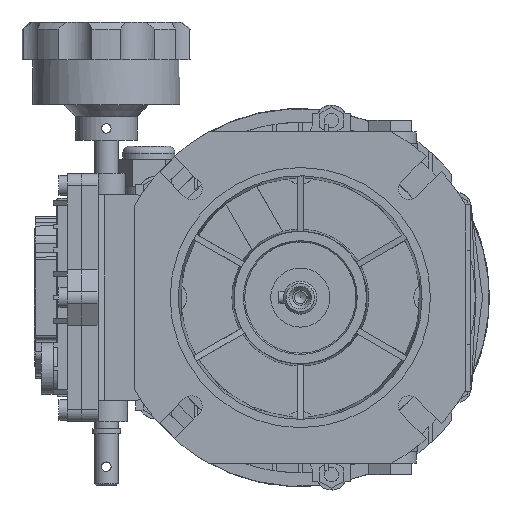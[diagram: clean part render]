
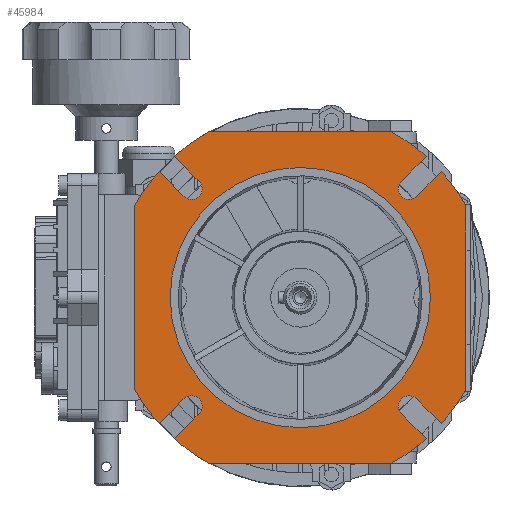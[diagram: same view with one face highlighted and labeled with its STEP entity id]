
A CAD part, left-side view. The second image highlights one B-rep face of the part: STEP entity #45984.
In plain terms, the highlighted planar face has unit normal (-1, 0, 0).
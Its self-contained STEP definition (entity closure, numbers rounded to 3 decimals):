
#1177=CIRCLE('',#48648,80.);
#1179=CIRCLE('',#48651,80.);
#1180=CIRCLE('',#48653,80.);
#1181=CIRCLE('',#48655,80.);
#1183=CIRCLE('',#48658,80.);
#1184=CIRCLE('',#48660,80.);
#1185=CIRCLE('',#48662,80.);
#1284=CIRCLE('',#48919,80.);
#1312=CIRCLE('',#48983,55.);
#1313=CIRCLE('',#48984,4.5);
#1314=CIRCLE('',#48985,4.5);
#1315=CIRCLE('',#48986,4.5);
#1316=CIRCLE('',#48987,4.5);
#5621=ORIENTED_EDGE('',*,*,#19101,.T.);
#5622=ORIENTED_EDGE('',*,*,#18504,.F.);
#5623=ORIENTED_EDGE('',*,*,#19102,.T.);
#5624=ORIENTED_EDGE('',*,*,#18499,.F.);
#5625=ORIENTED_EDGE('',*,*,#19103,.F.);
#5626=ORIENTED_EDGE('',*,*,#19104,.T.);
#5627=ORIENTED_EDGE('',*,*,#19105,.T.);
#5628=ORIENTED_EDGE('',*,*,#18509,.F.);
#5629=ORIENTED_EDGE('',*,*,#19106,.T.);
#5630=ORIENTED_EDGE('',*,*,#18506,.F.);
#5631=ORIENTED_EDGE('',*,*,#19107,.F.);
#5632=ORIENTED_EDGE('',*,*,#19108,.T.);
#5633=ORIENTED_EDGE('',*,*,#19109,.T.);
#5634=ORIENTED_EDGE('',*,*,#18516,.F.);
#5635=ORIENTED_EDGE('',*,*,#19110,.T.);
#5636=ORIENTED_EDGE('',*,*,#18513,.F.);
#5637=ORIENTED_EDGE('',*,*,#19111,.F.);
#5638=ORIENTED_EDGE('',*,*,#19112,.T.);
#5639=ORIENTED_EDGE('',*,*,#19113,.T.);
#5640=ORIENTED_EDGE('',*,*,#19053,.F.);
#5641=ORIENTED_EDGE('',*,*,#19114,.T.);
#5642=ORIENTED_EDGE('',*,*,#18519,.F.);
#5643=ORIENTED_EDGE('',*,*,#19115,.F.);
#5644=ORIENTED_EDGE('',*,*,#19116,.T.);
#5645=ORIENTED_EDGE('',*,*,#19117,.T.);
#18499=EDGE_CURVE('',#25511,#25512,#1177,.T.);
#18504=EDGE_CURVE('',#25515,#25516,#1179,.T.);
#18506=EDGE_CURVE('',#25517,#25518,#1180,.T.);
#18509=EDGE_CURVE('',#25519,#25520,#1181,.T.);
#18513=EDGE_CURVE('',#25523,#25524,#1183,.T.);
#18516=EDGE_CURVE('',#25525,#25526,#1184,.T.);
#18519=EDGE_CURVE('',#25527,#25528,#1185,.T.);
#19053=EDGE_CURVE('',#25871,#25872,#1284,.T.);
#19101=EDGE_CURVE('',#25889,#25889,#1312,.T.);
#19102=EDGE_CURVE('',#25515,#25512,#30516,.T.);
#19103=EDGE_CURVE('',#25890,#25511,#30517,.T.);
#19104=EDGE_CURVE('',#25890,#25891,#1313,.T.);
#19105=EDGE_CURVE('',#25891,#25520,#30518,.T.);
#19106=EDGE_CURVE('',#25519,#25518,#30519,.T.);
#19107=EDGE_CURVE('',#25892,#25517,#30520,.T.);
#19108=EDGE_CURVE('',#25892,#25893,#1314,.T.);
#19109=EDGE_CURVE('',#25893,#25526,#30521,.T.);
#19110=EDGE_CURVE('',#25525,#25524,#30522,.T.);
#19111=EDGE_CURVE('',#25894,#25523,#30523,.T.);
#19112=EDGE_CURVE('',#25894,#25895,#1315,.T.);
#19113=EDGE_CURVE('',#25895,#25872,#30524,.T.);
#19114=EDGE_CURVE('',#25871,#25528,#30525,.T.);
#19115=EDGE_CURVE('',#25896,#25527,#30526,.T.);
#19116=EDGE_CURVE('',#25896,#25897,#1316,.T.);
#19117=EDGE_CURVE('',#25897,#25516,#30527,.T.);
#25511=VERTEX_POINT('',#68875);
#25512=VERTEX_POINT('',#68876);
#25515=VERTEX_POINT('',#68884);
#25516=VERTEX_POINT('',#68886);
#25517=VERTEX_POINT('',#68890);
#25518=VERTEX_POINT('',#68891);
#25519=VERTEX_POINT('',#68896);
#25520=VERTEX_POINT('',#68897);
#25523=VERTEX_POINT('',#68905);
#25524=VERTEX_POINT('',#68906);
#25525=VERTEX_POINT('',#68911);
#25526=VERTEX_POINT('',#68912);
#25527=VERTEX_POINT('',#68917);
#25528=VERTEX_POINT('',#68918);
#25871=VERTEX_POINT('',#70106);
#25872=VERTEX_POINT('',#70107);
#25889=VERTEX_POINT('',#70232);
#25890=VERTEX_POINT('',#70235);
#25891=VERTEX_POINT('',#70237);
#25892=VERTEX_POINT('',#70241);
#25893=VERTEX_POINT('',#70243);
#25894=VERTEX_POINT('',#70247);
#25895=VERTEX_POINT('',#70249);
#25896=VERTEX_POINT('',#70253);
#25897=VERTEX_POINT('',#70255);
#30516=LINE('',#70233,#34842);
#30517=LINE('',#70234,#34843);
#30518=LINE('',#70238,#34844);
#30519=LINE('',#70239,#34845);
#30520=LINE('',#70240,#34846);
#30521=LINE('',#70244,#34847);
#30522=LINE('',#70245,#34848);
#30523=LINE('',#70246,#34849);
#30524=LINE('',#70250,#34850);
#30525=LINE('',#70251,#34851);
#30526=LINE('',#70252,#34852);
#30527=LINE('',#70256,#34853);
#34842=VECTOR('',#55146,1000.);
#34843=VECTOR('',#55147,1000.);
#34844=VECTOR('',#55150,1000.);
#34845=VECTOR('',#55151,1000.);
#34846=VECTOR('',#55152,1000.);
#34847=VECTOR('',#55155,1000.);
#34848=VECTOR('',#55156,1000.);
#34849=VECTOR('',#55157,1000.);
#34850=VECTOR('',#55160,1000.);
#34851=VECTOR('',#55161,1000.);
#34852=VECTOR('',#55162,1000.);
#34853=VECTOR('',#55165,1000.);
#38808=EDGE_LOOP('',(#5621));
#38809=EDGE_LOOP('',(#5622,#5623,#5624,#5625,#5626,#5627,#5628,#5629,#5630,
#5631,#5632,#5633,#5634,#5635,#5636,#5637,#5638,#5639,#5640,#5641,#5642,
#5643,#5644,#5645));
#41658=FACE_BOUND('',#38808,.T.);
#41659=FACE_BOUND('',#38809,.T.);
#44400=PLANE('',#48982);
#45984=ADVANCED_FACE('',(#41658,#41659),#44400,.F.);
#48648=AXIS2_PLACEMENT_3D('',#68874,#54066,#54067);
#48651=AXIS2_PLACEMENT_3D('',#68885,#54075,#54076);
#48653=AXIS2_PLACEMENT_3D('',#68889,#54080,#54081);
#48655=AXIS2_PLACEMENT_3D('',#68895,#54086,#54087);
#48658=AXIS2_PLACEMENT_3D('',#68904,#54094,#54095);
#48660=AXIS2_PLACEMENT_3D('',#68910,#54100,#54101);
#48662=AXIS2_PLACEMENT_3D('',#68916,#54106,#54107);
#48919=AXIS2_PLACEMENT_3D('',#70105,#55004,#55005);
#48982=AXIS2_PLACEMENT_3D('',#70230,#55142,#55143);
#48983=AXIS2_PLACEMENT_3D('',#70231,#55144,#55145);
#48984=AXIS2_PLACEMENT_3D('',#70236,#55148,#55149);
#48985=AXIS2_PLACEMENT_3D('',#70242,#55153,#55154);
#48986=AXIS2_PLACEMENT_3D('',#70248,#55158,#55159);
#48987=AXIS2_PLACEMENT_3D('',#70254,#55163,#55164);
#54066=DIRECTION('',(1.,0.,0.));
#54067=DIRECTION('',(0.,1.,0.));
#54075=DIRECTION('',(1.,0.,0.));
#54076=DIRECTION('',(0.,1.,0.));
#54080=DIRECTION('',(1.,0.,0.));
#54081=DIRECTION('',(0.,1.,0.));
#54086=DIRECTION('',(1.,0.,0.));
#54087=DIRECTION('',(0.,1.,0.));
#54094=DIRECTION('',(1.,0.,0.));
#54095=DIRECTION('',(0.,1.,0.));
#54100=DIRECTION('',(1.,0.,0.));
#54101=DIRECTION('',(0.,1.,0.));
#54106=DIRECTION('',(1.,0.,0.));
#54107=DIRECTION('',(0.,1.,0.));
#55004=DIRECTION('',(1.,0.,0.));
#55005=DIRECTION('',(0.,1.,0.));
#55142=DIRECTION('',(1.,0.,0.));
#55143=DIRECTION('',(0.,0.,-1.));
#55144=DIRECTION('',(1.,0.,0.));
#55145=DIRECTION('',(0.,0.,-1.));
#55146=DIRECTION('',(0.,1.,0.));
#55147=DIRECTION('',(0.,0.707,0.707));
#55148=DIRECTION('',(1.,0.,0.));
#55149=DIRECTION('',(0.,0.,-1.));
#55150=DIRECTION('',(0.,0.707,0.707));
#55151=DIRECTION('',(0.,0.,-1.));
#55152=DIRECTION('',(0.,0.707,-0.707));
#55153=DIRECTION('',(1.,0.,0.));
#55154=DIRECTION('',(0.,0.,-1.));
#55155=DIRECTION('',(0.,0.707,-0.707));
#55156=DIRECTION('',(0.,-1.,0.));
#55157=DIRECTION('',(0.,-0.707,-0.707));
#55158=DIRECTION('',(1.,0.,0.));
#55159=DIRECTION('',(0.,0.,-1.));
#55160=DIRECTION('',(0.,-0.707,-0.707));
#55161=DIRECTION('',(0.,0.,1.));
#55162=DIRECTION('',(0.,-0.707,0.707));
#55163=DIRECTION('',(1.,0.,0.));
#55164=DIRECTION('',(0.,0.,-1.));
#55165=DIRECTION('',(0.,-0.707,0.707));
#68874=CARTESIAN_POINT('',(-83.,0.,0.));
#68875=CARTESIAN_POINT('',(-83.,53.297,59.661));
#68876=CARTESIAN_POINT('',(-83.,38.73,70.));
#68884=CARTESIAN_POINT('',(-83.,-38.73,70.));
#68885=CARTESIAN_POINT('',(-83.,0.,0.));
#68886=CARTESIAN_POINT('',(-83.,-53.297,59.661));
#68889=CARTESIAN_POINT('',(-83.,0.,0.));
#68890=CARTESIAN_POINT('',(-83.,59.661,-53.297));
#68891=CARTESIAN_POINT('',(-83.,70.,-38.73));
#68895=CARTESIAN_POINT('',(-83.,0.,0.));
#68896=CARTESIAN_POINT('',(-83.,70.,38.73));
#68897=CARTESIAN_POINT('',(-83.,59.661,53.297));
#68904=CARTESIAN_POINT('',(-83.,0.,0.));
#68905=CARTESIAN_POINT('',(-83.,-53.297,-59.661));
#68906=CARTESIAN_POINT('',(-83.,-38.73,-70.));
#68910=CARTESIAN_POINT('',(-83.,0.,0.));
#68911=CARTESIAN_POINT('',(-83.,38.73,-70.));
#68912=CARTESIAN_POINT('',(-83.,53.297,-59.661));
#68916=CARTESIAN_POINT('',(-83.,0.,0.));
#68917=CARTESIAN_POINT('',(-83.,-59.661,53.297));
#68918=CARTESIAN_POINT('',(-83.,-70.,38.73));
#70105=CARTESIAN_POINT('',(-83.,0.,0.));
#70106=CARTESIAN_POINT('',(-83.,-70.,-38.73));
#70107=CARTESIAN_POINT('',(-83.,-59.661,-53.297));
#70230=CARTESIAN_POINT('',(-83.,0.,0.));
#70231=CARTESIAN_POINT('',(-83.,0.,0.));
#70232=CARTESIAN_POINT('',(-83.,0.,-55.));
#70233=CARTESIAN_POINT('',(-83.,0.,70.));
#70234=CARTESIAN_POINT('',(-83.,42.78,49.144));
#70235=CARTESIAN_POINT('',(-83.,42.78,49.144));
#70236=CARTESIAN_POINT('',(-83.,45.962,45.962));
#70237=CARTESIAN_POINT('',(-83.,49.144,42.78));
#70238=CARTESIAN_POINT('',(-83.,3.182,-3.182));
#70239=CARTESIAN_POINT('',(-83.,70.,0.));
#70240=CARTESIAN_POINT('',(-83.,49.144,-42.78));
#70241=CARTESIAN_POINT('',(-83.,49.144,-42.78));
#70242=CARTESIAN_POINT('',(-83.,45.962,-45.962));
#70243=CARTESIAN_POINT('',(-83.,42.78,-49.144));
#70244=CARTESIAN_POINT('',(-83.,-3.182,-3.182));
#70245=CARTESIAN_POINT('',(-83.,0.,-70.));
#70246=CARTESIAN_POINT('',(-83.,-42.78,-49.144));
#70247=CARTESIAN_POINT('',(-83.,-42.78,-49.144));
#70248=CARTESIAN_POINT('',(-83.,-45.962,-45.962));
#70249=CARTESIAN_POINT('',(-83.,-49.144,-42.78));
#70250=CARTESIAN_POINT('',(-83.,-3.182,3.182));
#70251=CARTESIAN_POINT('',(-83.,-70.,0.));
#70252=CARTESIAN_POINT('',(-83.,-49.144,42.78));
#70253=CARTESIAN_POINT('',(-83.,-49.144,42.78));
#70254=CARTESIAN_POINT('',(-83.,-45.962,45.962));
#70255=CARTESIAN_POINT('',(-83.,-42.78,49.144));
#70256=CARTESIAN_POINT('',(-83.,3.182,3.182));
